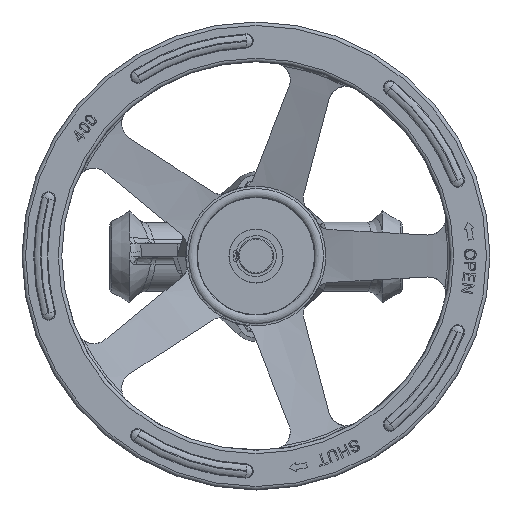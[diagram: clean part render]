
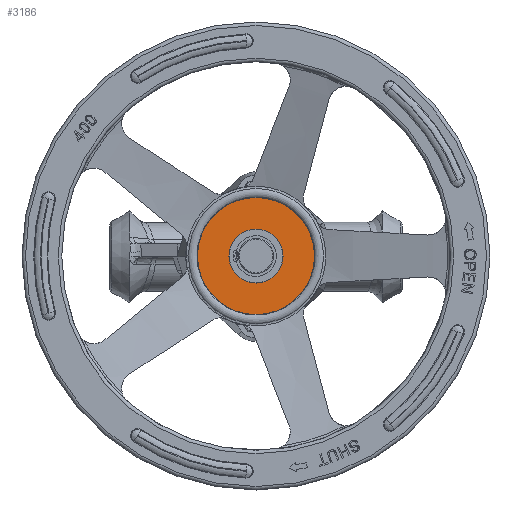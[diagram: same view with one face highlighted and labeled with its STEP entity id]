
A CAD part, top view. The second image highlights one B-rep face of the part: STEP entity #3186.
In plain terms, the highlighted planar face has unit normal (0, 0, 1).
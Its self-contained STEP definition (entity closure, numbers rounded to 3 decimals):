
#282=FACE_BOUND('',#5122,.T.);
#283=FACE_BOUND('',#5123,.T.);
#2581=PLANE('',#15943);
#3186=ADVANCED_FACE('',(#282,#283),#2581,.T.);
#5122=EDGE_LOOP('',(#8606));
#5123=EDGE_LOOP('',(#8607));
#8606=ORIENTED_EDGE('',*,*,#13561,.T.);
#8607=ORIENTED_EDGE('',*,*,#13562,.F.);
#11736=VERTEX_POINT('',#27339);
#11737=VERTEX_POINT('',#27342);
#13561=EDGE_CURVE('',#11736,#11736,#14937,.T.);
#13562=EDGE_CURVE('',#11737,#11737,#14938,.T.);
#14937=CIRCLE('',#15940,23.1);
#14938=CIRCLE('',#15942,50.);
#15940=AXIS2_PLACEMENT_3D('',#27338,#18463,#18464);
#15942=AXIS2_PLACEMENT_3D('',#27341,#18467,#18468);
#15943=AXIS2_PLACEMENT_3D('',#27343,#18469,#18470);
#18463=DIRECTION('',(0.,0.,-1.));
#18464=DIRECTION('',(0.,1.,0.));
#18467=DIRECTION('',(0.,0.,-1.));
#18468=DIRECTION('',(0.,1.,0.));
#18469=DIRECTION('',(0.,0.,1.));
#18470=DIRECTION('',(0.,-1.,0.));
#27338=CARTESIAN_POINT('',(0.,0.,407.));
#27339=CARTESIAN_POINT('',(0.,23.1,407.));
#27341=CARTESIAN_POINT('',(0.,0.,407.));
#27342=CARTESIAN_POINT('',(0.,50.,407.));
#27343=CARTESIAN_POINT('',(-25.5,0.,407.));
